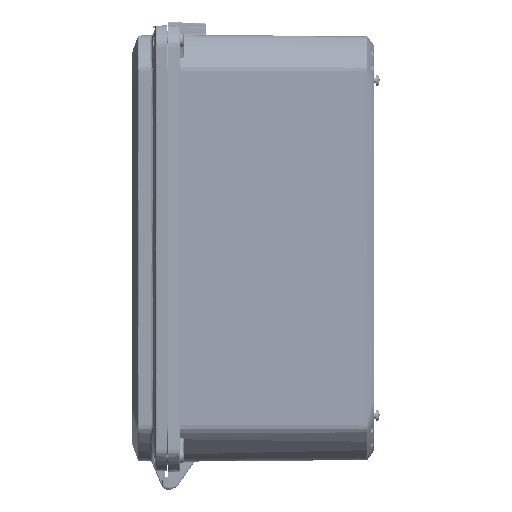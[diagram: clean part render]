
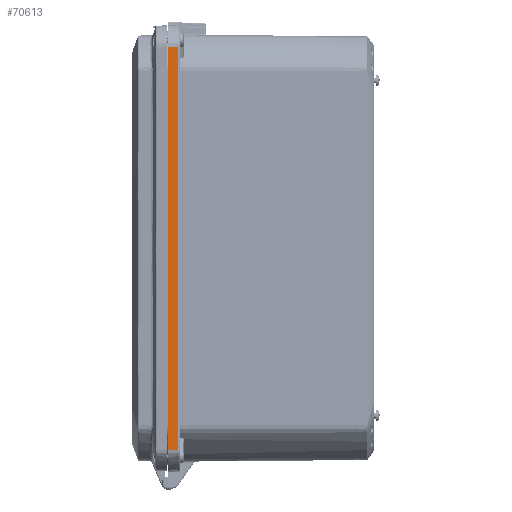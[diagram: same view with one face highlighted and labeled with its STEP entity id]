
A CAD part, left-side view. The second image highlights one B-rep face of the part: STEP entity #70613.
In plain terms, the highlighted planar face has unit normal (-0.999, -0.035, 0).
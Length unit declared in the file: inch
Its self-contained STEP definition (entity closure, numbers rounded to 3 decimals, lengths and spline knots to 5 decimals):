
#205 = LINE ( 'NONE', #42934, #243311 ) ;
#4193 = VECTOR ( 'NONE', #24139, 39.37008 ) ;
#15968 = EDGE_CURVE ( 'NONE', #100733, #159850, #114543, .T. ) ;
#19976 = CARTESIAN_POINT ( 'NONE',  ( -8.62, 0., 7.3 ) ) ;
#23739 = DIRECTION ( 'NONE',  ( 0., 0., 1. ) ) ;
#24139 = DIRECTION ( 'NONE',  ( 0., 0., 1. ) ) ;
#31802 = CARTESIAN_POINT ( 'NONE',  ( -8.62, 0., 6.89046 ) ) ;
#35908 = CARTESIAN_POINT ( 'NONE',  ( -8.60772, -0.35174, -6.89046 ) ) ;
#42934 = CARTESIAN_POINT ( 'NONE',  ( -8.62, 0., 7.3 ) ) ;
#50994 = LINE ( 'NONE', #31802, #86923 ) ;
#57493 = EDGE_CURVE ( 'NONE', #100733, #67054, #205, .T. ) ;
#58181 = EDGE_CURVE ( 'NONE', #159850, #62489, #134303, .T. ) ;
#62489 = VERTEX_POINT ( 'NONE', #197020 ) ;
#67054 = VERTEX_POINT ( 'NONE', #170982 ) ;
#70613 = ADVANCED_FACE ( 'NONE', ( #128688 ), #149335, .T. ) ;
#80788 = ORIENTED_EDGE ( 'NONE', *, *, #57493, .F. ) ;
#81948 = AXIS2_PLACEMENT_3D ( 'NONE', #19976, #215509, #285955 ) ;
#86923 = VECTOR ( 'NONE', #249286, 39.37008 ) ;
#100317 = EDGE_CURVE ( 'NONE', #67054, #62489, #50994, .T. ) ;
#100733 = VERTEX_POINT ( 'NONE', #219698 ) ;
#114543 = LINE ( 'NONE', #183628, #263415 ) ;
#128688 = FACE_OUTER_BOUND ( 'NONE', #249718, .T. ) ;
#134303 = LINE ( 'NONE', #224013, #4193 ) ;
#149335 = PLANE ( 'NONE',  #81948 ) ;
#159850 = VERTEX_POINT ( 'NONE', #35908 ) ;
#170982 = CARTESIAN_POINT ( 'NONE',  ( -8.62, 0., 6.89046 ) ) ;
#183628 = CARTESIAN_POINT ( 'NONE',  ( -8.62, 0., -6.89046 ) ) ;
#185088 = DIRECTION ( 'NONE',  ( 0.035, -0.999, 0. ) ) ;
#197020 = CARTESIAN_POINT ( 'NONE',  ( -8.60772, -0.35174, 6.89046 ) ) ;
#215509 = DIRECTION ( 'NONE',  ( -0.999, -0.035, 0. ) ) ;
#219698 = CARTESIAN_POINT ( 'NONE',  ( -8.62, 0., -6.89046 ) ) ;
#224013 = CARTESIAN_POINT ( 'NONE',  ( -8.60772, -0.35174, 6.89046 ) ) ;
#236678 = ORIENTED_EDGE ( 'NONE', *, *, #100317, .F. ) ;
#243311 = VECTOR ( 'NONE', #23739, 39.37008 ) ;
#249286 = DIRECTION ( 'NONE',  ( 0.035, -0.999, 0. ) ) ;
#249718 = EDGE_LOOP ( 'NONE', ( #254708, #236678, #80788, #271703 ) ) ;
#254708 = ORIENTED_EDGE ( 'NONE', *, *, #58181, .T. ) ;
#263415 = VECTOR ( 'NONE', #185088, 39.37008 ) ;
#271703 = ORIENTED_EDGE ( 'NONE', *, *, #15968, .T. ) ;
#285955 = DIRECTION ( 'NONE',  ( 0.035, -0.999, 0. ) ) ;
